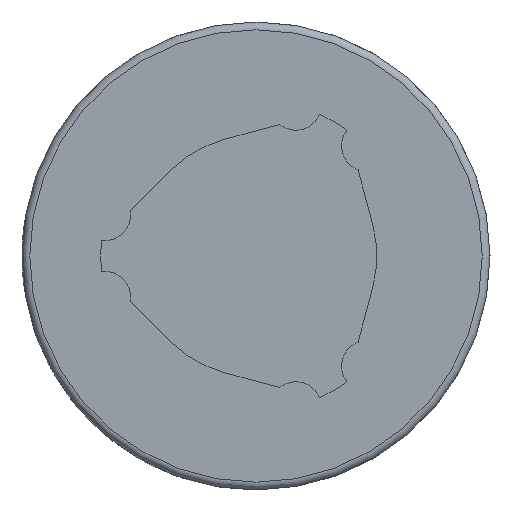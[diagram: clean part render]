
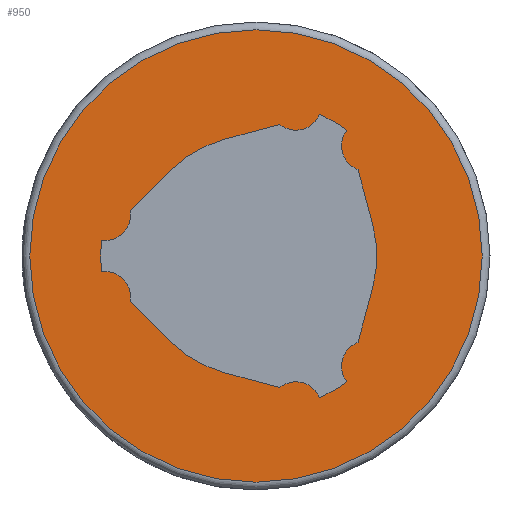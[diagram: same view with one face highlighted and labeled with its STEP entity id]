
A CAD part, left-side view. The second image highlights one B-rep face of the part: STEP entity #950.
In plain terms, the highlighted planar face has unit normal (-1, 0, 0).
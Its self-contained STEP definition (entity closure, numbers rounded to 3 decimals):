
#48=PLANE('',#1057);
#92=LINE('',#1550,#162);
#93=LINE('',#1559,#163);
#94=LINE('',#1563,#164);
#95=LINE('',#1571,#165);
#96=LINE('',#1575,#166);
#97=LINE('',#1583,#167);
#162=VECTOR('',#1255,1000.);
#163=VECTOR('',#1262,1000.);
#164=VECTOR('',#1265,1000.);
#165=VECTOR('',#1272,1000.);
#166=VECTOR('',#1275,1000.);
#167=VECTOR('',#1282,1000.);
#310=ORIENTED_EDGE('',*,*,#528,.F.);
#311=ORIENTED_EDGE('',*,*,#529,.T.);
#312=ORIENTED_EDGE('',*,*,#530,.F.);
#313=ORIENTED_EDGE('',*,*,#531,.T.);
#314=ORIENTED_EDGE('',*,*,#532,.F.);
#315=ORIENTED_EDGE('',*,*,#533,.T.);
#316=ORIENTED_EDGE('',*,*,#534,.T.);
#317=ORIENTED_EDGE('',*,*,#535,.T.);
#318=ORIENTED_EDGE('',*,*,#536,.F.);
#319=ORIENTED_EDGE('',*,*,#537,.T.);
#320=ORIENTED_EDGE('',*,*,#538,.F.);
#321=ORIENTED_EDGE('',*,*,#539,.T.);
#322=ORIENTED_EDGE('',*,*,#540,.T.);
#323=ORIENTED_EDGE('',*,*,#541,.T.);
#324=ORIENTED_EDGE('',*,*,#542,.F.);
#325=ORIENTED_EDGE('',*,*,#543,.T.);
#326=ORIENTED_EDGE('',*,*,#544,.F.);
#327=ORIENTED_EDGE('',*,*,#545,.T.);
#328=ORIENTED_EDGE('',*,*,#546,.T.);
#528=EDGE_CURVE('',#646,#646,#728,.T.);
#529=EDGE_CURVE('',#647,#648,#92,.T.);
#530=EDGE_CURVE('',#649,#648,#729,.T.);
#531=EDGE_CURVE('',#649,#650,#730,.T.);
#532=EDGE_CURVE('',#651,#650,#731,.T.);
#533=EDGE_CURVE('',#651,#652,#93,.T.);
#534=EDGE_CURVE('',#652,#653,#732,.T.);
#535=EDGE_CURVE('',#653,#654,#94,.T.);
#536=EDGE_CURVE('',#655,#654,#733,.T.);
#537=EDGE_CURVE('',#655,#656,#734,.T.);
#538=EDGE_CURVE('',#657,#656,#735,.T.);
#539=EDGE_CURVE('',#657,#658,#95,.T.);
#540=EDGE_CURVE('',#658,#659,#736,.T.);
#541=EDGE_CURVE('',#659,#660,#96,.T.);
#542=EDGE_CURVE('',#661,#660,#737,.T.);
#543=EDGE_CURVE('',#661,#662,#738,.T.);
#544=EDGE_CURVE('',#663,#662,#739,.T.);
#545=EDGE_CURVE('',#663,#664,#97,.T.);
#546=EDGE_CURVE('',#664,#647,#740,.T.);
#646=VERTEX_POINT('',#1549);
#647=VERTEX_POINT('',#1551);
#648=VERTEX_POINT('',#1552);
#649=VERTEX_POINT('',#1554);
#650=VERTEX_POINT('',#1556);
#651=VERTEX_POINT('',#1558);
#652=VERTEX_POINT('',#1560);
#653=VERTEX_POINT('',#1562);
#654=VERTEX_POINT('',#1564);
#655=VERTEX_POINT('',#1566);
#656=VERTEX_POINT('',#1568);
#657=VERTEX_POINT('',#1570);
#658=VERTEX_POINT('',#1572);
#659=VERTEX_POINT('',#1574);
#660=VERTEX_POINT('',#1576);
#661=VERTEX_POINT('',#1578);
#662=VERTEX_POINT('',#1580);
#663=VERTEX_POINT('',#1582);
#664=VERTEX_POINT('',#1584);
#728=CIRCLE('',#1058,29.);
#729=CIRCLE('',#1059,3.3);
#730=CIRCLE('',#1060,19.9);
#731=CIRCLE('',#1061,3.3);
#732=CIRCLE('',#1062,15.5);
#733=CIRCLE('',#1063,3.3);
#734=CIRCLE('',#1064,19.9);
#735=CIRCLE('',#1065,3.3);
#736=CIRCLE('',#1066,15.5);
#737=CIRCLE('',#1067,3.3);
#738=CIRCLE('',#1068,19.9);
#739=CIRCLE('',#1069,3.3);
#740=CIRCLE('',#1070,15.5);
#783=EDGE_LOOP('',(#310));
#784=EDGE_LOOP('',(#311,#312,#313,#314,#315,#316,#317,#318,#319,#320,#321,
#322,#323,#324,#325,#326,#327,#328));
#851=FACE_BOUND('',#783,.T.);
#852=FACE_BOUND('',#784,.T.);
#950=ADVANCED_FACE('',(#851,#852),#48,.F.);
#1057=AXIS2_PLACEMENT_3D('',#1547,#1251,#1252);
#1058=AXIS2_PLACEMENT_3D('',#1548,#1253,#1254);
#1059=AXIS2_PLACEMENT_3D('',#1553,#1256,#1257);
#1060=AXIS2_PLACEMENT_3D('',#1555,#1258,#1259);
#1061=AXIS2_PLACEMENT_3D('',#1557,#1260,#1261);
#1062=AXIS2_PLACEMENT_3D('',#1561,#1263,#1264);
#1063=AXIS2_PLACEMENT_3D('',#1565,#1266,#1267);
#1064=AXIS2_PLACEMENT_3D('',#1567,#1268,#1269);
#1065=AXIS2_PLACEMENT_3D('',#1569,#1270,#1271);
#1066=AXIS2_PLACEMENT_3D('',#1573,#1273,#1274);
#1067=AXIS2_PLACEMENT_3D('',#1577,#1276,#1277);
#1068=AXIS2_PLACEMENT_3D('',#1579,#1278,#1279);
#1069=AXIS2_PLACEMENT_3D('',#1581,#1280,#1281);
#1070=AXIS2_PLACEMENT_3D('',#1585,#1283,#1284);
#1251=DIRECTION('',(1.,0.,0.));
#1252=DIRECTION('',(0.,0.,-1.));
#1253=DIRECTION('',(1.,0.,0.));
#1254=DIRECTION('',(0.,0.,-1.));
#1255=DIRECTION('',(0.,-0.966,0.259));
#1256=DIRECTION('',(1.,0.,0.));
#1257=DIRECTION('',(0.,0.,-1.));
#1258=DIRECTION('',(1.,0.,0.));
#1259=DIRECTION('',(0.,0.,-1.));
#1260=DIRECTION('',(1.,0.,0.));
#1261=DIRECTION('',(0.,0.,-1.));
#1262=DIRECTION('',(0.,-0.259,-0.966));
#1263=DIRECTION('',(1.,0.,0.));
#1264=DIRECTION('',(0.,0.,-1.));
#1265=DIRECTION('',(0.,0.259,-0.966));
#1266=DIRECTION('',(1.,0.,0.));
#1267=DIRECTION('',(0.,0.,-1.));
#1268=DIRECTION('',(1.,0.,0.));
#1269=DIRECTION('',(0.,0.,-1.));
#1270=DIRECTION('',(1.,0.,0.));
#1271=DIRECTION('',(0.,0.,-1.));
#1272=DIRECTION('',(0.,0.966,0.259));
#1273=DIRECTION('',(1.,0.,0.));
#1274=DIRECTION('',(0.,0.,-1.));
#1275=DIRECTION('',(0.,0.707,0.707));
#1276=DIRECTION('',(1.,0.,0.));
#1277=DIRECTION('',(0.,0.,-1.));
#1278=DIRECTION('',(1.,0.,0.));
#1279=DIRECTION('',(0.,0.,-1.));
#1280=DIRECTION('',(1.,0.,0.));
#1281=DIRECTION('',(0.,0.,-1.));
#1282=DIRECTION('',(0.,-0.707,0.707));
#1283=DIRECTION('',(1.,0.,0.));
#1284=DIRECTION('',(0.,0.,-1.));
#1547=CARTESIAN_POINT('',(0.,0.,0.));
#1548=CARTESIAN_POINT('',(0.,0.,0.));
#1549=CARTESIAN_POINT('',(0.,0.,-29.));
#1550=CARTESIAN_POINT('',(0.,4.012,14.972));
#1551=CARTESIAN_POINT('',(0.,4.012,14.972));
#1552=CARTESIAN_POINT('',(0.,-3.038,16.861));
#1553=CARTESIAN_POINT('',(0.,-5.114,19.427));
#1554=CARTESIAN_POINT('',(0.,-8.157,18.151));
#1555=CARTESIAN_POINT('',(0.,0.,0.));
#1556=CARTESIAN_POINT('',(0.,-11.641,16.14));
#1557=CARTESIAN_POINT('',(0.,-14.267,14.142));
#1558=CARTESIAN_POINT('',(0.,-13.083,11.062));
#1559=CARTESIAN_POINT('',(0.,-13.083,11.062));
#1560=CARTESIAN_POINT('',(0.,-14.972,4.012));
#1561=CARTESIAN_POINT('',(0.,0.,0.));
#1562=CARTESIAN_POINT('',(0.,-14.972,-4.012));
#1563=CARTESIAN_POINT('',(0.,-14.972,-4.012));
#1564=CARTESIAN_POINT('',(0.,-13.083,-11.062));
#1565=CARTESIAN_POINT('',(0.,-14.267,-14.142));
#1566=CARTESIAN_POINT('',(0.,-11.641,-16.14));
#1567=CARTESIAN_POINT('',(0.,0.,0.));
#1568=CARTESIAN_POINT('',(0.,-8.157,-18.151));
#1569=CARTESIAN_POINT('',(0.,-5.114,-19.427));
#1570=CARTESIAN_POINT('',(0.,-3.038,-16.861));
#1571=CARTESIAN_POINT('',(0.,-3.038,-16.861));
#1572=CARTESIAN_POINT('',(0.,4.012,-14.972));
#1573=CARTESIAN_POINT('',(0.,0.,0.));
#1574=CARTESIAN_POINT('',(0.,10.96,-10.96));
#1575=CARTESIAN_POINT('',(0.,10.96,-10.96));
#1576=CARTESIAN_POINT('',(0.,16.121,-5.799));
#1577=CARTESIAN_POINT('',(0.,19.381,-5.285));
#1578=CARTESIAN_POINT('',(0.,19.798,-2.011));
#1579=CARTESIAN_POINT('',(0.,0.,0.));
#1580=CARTESIAN_POINT('',(0.,19.798,2.011));
#1581=CARTESIAN_POINT('',(0.,19.381,5.285));
#1582=CARTESIAN_POINT('',(0.,16.121,5.799));
#1583=CARTESIAN_POINT('',(0.,16.121,5.799));
#1584=CARTESIAN_POINT('',(0.,10.96,10.96));
#1585=CARTESIAN_POINT('',(0.,0.,0.));
